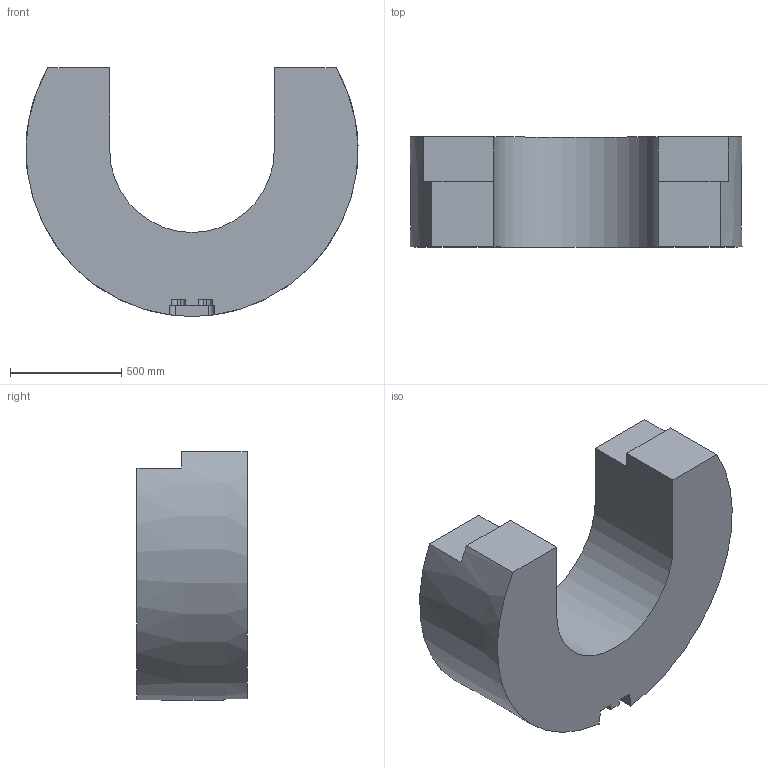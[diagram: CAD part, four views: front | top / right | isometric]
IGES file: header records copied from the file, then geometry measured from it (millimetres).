
Start section:  PTC IGES file: bpu_horseshoe_middle_af0.igs
Global section: file name: bpu_horseshoe_middle_af0.igs; native system: Pro/ENGINEER by Parametric Technology Corporation; preprocessor: 1999260; author: oshatz; organization: Unknown; date: 000922.101845; units: millimetre
Bounding box: 1493.3 x 495 x 1117.92 mm (x, y, z)
Surface area: 4569202.3 mm2 (no closed solid volume)
Topology: 0 solids, 0 shells, 30 faces, 168 edges, 168 vertices
Faces by surface type: bspline 22, revolution 8
